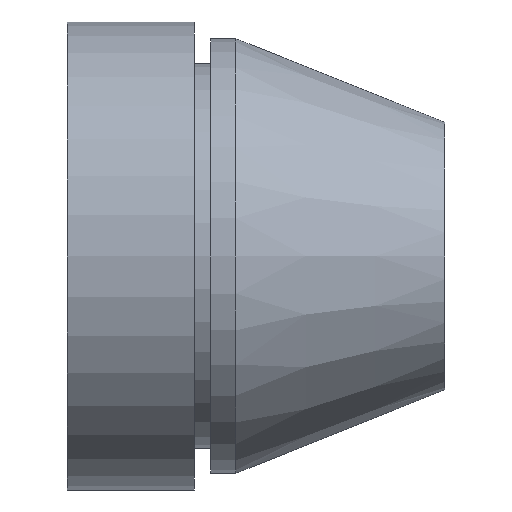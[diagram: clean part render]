
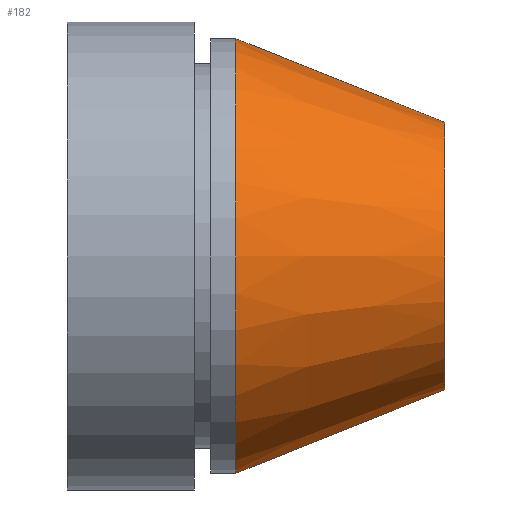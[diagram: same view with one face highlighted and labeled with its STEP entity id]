
A CAD part, left-side view. The second image highlights one B-rep face of the part: STEP entity #182.
In plain terms, the highlighted conical face has half-angle 21.801 degrees and reference radius 8 mm.
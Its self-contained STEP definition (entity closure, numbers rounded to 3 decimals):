
#17 = CARTESIAN_POINT ( 'NONE',  ( 0., 12.5, 13. ) ) ;
#23 = CARTESIAN_POINT ( 'NONE',  ( 0., 0., 8. ) ) ;
#25 = CARTESIAN_POINT ( 'NONE',  ( 0., 12.5, -13. ) ) ;
#28 = CARTESIAN_POINT ( 'NONE',  ( 0., 0., -8. ) ) ;
#58 = AXIS2_PLACEMENT_3D ( 'NONE', #231, #226, #232 ) ;
#85 = DIRECTION ( 'NONE',  ( 0., 0., -1. ) ) ;
#87 = EDGE_CURVE ( 'NONE', #354, #351, #329, .T. ) ;
#88 = EDGE_CURVE ( 'NONE', #348, #347, #338, .T. ) ;
#89 = EDGE_CURVE ( 'NONE', #348, #354, #333, .T. ) ;
#90 = EDGE_CURVE ( 'NONE', #347, #351, #133, .T. ) ;
#106 = AXIS2_PLACEMENT_3D ( 'NONE', #257, #258, #259 ) ;
#107 = AXIS2_PLACEMENT_3D ( 'NONE', #262, #260, #85 ) ;
#133 = CIRCLE ( 'NONE', #107, 13. ) ;
#149 = CONICAL_SURFACE ( 'NONE', #58, 8., 0.381 ) ;
#161 = FACE_OUTER_BOUND ( 'NONE', #334, .T. ) ;
#171 = CARTESIAN_POINT ( 'NONE',  ( 0., 0., 8. ) ) ;
#175 = DIRECTION ( 'NONE',  ( 0., 0.928, 0.371 ) ) ;
#176 = CARTESIAN_POINT ( 'NONE',  ( 0., 0., -8. ) ) ;
#177 = DIRECTION ( 'NONE',  ( 0., 0.928, -0.371 ) ) ;
#182 = ADVANCED_FACE ( 'NONE', ( #161 ), #149, .T. ) ;
#226 = DIRECTION ( 'NONE',  ( 0., 1., 0. ) ) ;
#231 = CARTESIAN_POINT ( 'NONE',  ( 0., 0., 0. ) ) ;
#232 = DIRECTION ( 'NONE',  ( 0., 0., 1. ) ) ;
#257 = CARTESIAN_POINT ( 'NONE',  ( 0., 0., 0. ) ) ;
#258 = DIRECTION ( 'NONE',  ( 0., -1., 0. ) ) ;
#259 = DIRECTION ( 'NONE',  ( 0., 0., -1. ) ) ;
#260 = DIRECTION ( 'NONE',  ( 0., -1., 0. ) ) ;
#262 = CARTESIAN_POINT ( 'NONE',  ( 0., 12.5, 0. ) ) ;
#308 = ORIENTED_EDGE ( 'NONE', *, *, #88, .T. ) ;
#316 = VECTOR ( 'NONE', #175, 1000. ) ;
#324 = VECTOR ( 'NONE', #177, 1000. ) ;
#329 = LINE ( 'NONE', #176, #324 ) ;
#333 = CIRCLE ( 'NONE', #106, 8. ) ;
#334 = EDGE_LOOP ( 'NONE', ( #382, #367, #308, #385 ) ) ;
#338 = LINE ( 'NONE', #171, #316 ) ;
#347 = VERTEX_POINT ( 'NONE', #17 ) ;
#348 = VERTEX_POINT ( 'NONE', #23 ) ;
#351 = VERTEX_POINT ( 'NONE', #25 ) ;
#354 = VERTEX_POINT ( 'NONE', #28 ) ;
#367 = ORIENTED_EDGE ( 'NONE', *, *, #89, .F. ) ;
#382 = ORIENTED_EDGE ( 'NONE', *, *, #87, .F. ) ;
#385 = ORIENTED_EDGE ( 'NONE', *, *, #90, .T. ) ;
